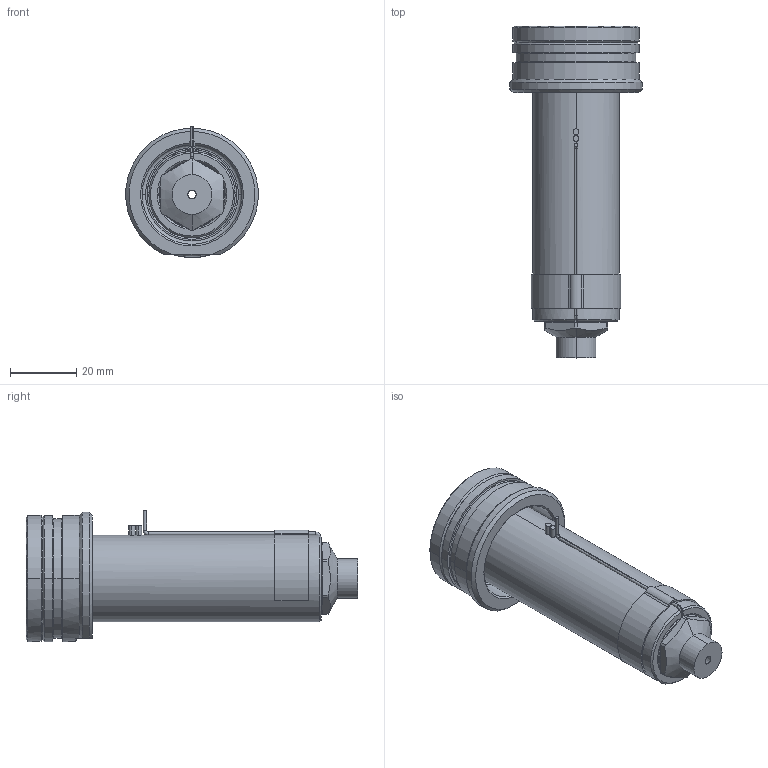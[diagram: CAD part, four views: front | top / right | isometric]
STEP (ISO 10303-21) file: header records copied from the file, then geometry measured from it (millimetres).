
FILE_DESCRIPTION((''),'2;1');
FILE_NAME('EO08_VG-FB_WR_080_SW','2024-02-19T13:30:38',('sundharh'),(''),'CREO PARAMETRIC BY PTC INC, 2023154','CREO PARAMETRIC BY PTC INC, 2023154','');
FILE_SCHEMA(('CONFIG_CONTROL_DESIGN'));
Length unit declared in the file: millimetre
Products named in the file (1): EO08_VG-FB_WR_080_SW
Bounding box: 39.88 x 100 x 39.52 mm (x, y, z)
Volume: 54309.7 mm3; surface area: 17126.3 mm2
Topology: 1 solids, 1 shells, 202 faces, 494 edges, 299 vertices
Faces by surface type: cylinder 72, plane 46, cone 41, torus 29, bspline 12, sphere 2
Entity records: 7292 total; most frequent: CARTESIAN_POINT 2434, DIRECTION 1089, ORIENTED_EDGE 980, EDGE_CURVE 490, AXIS2_PLACEMENT_3D 458, VERTEX_POINT 299, CIRCLE 268, EDGE_LOOP 219
